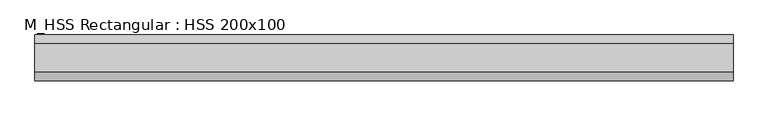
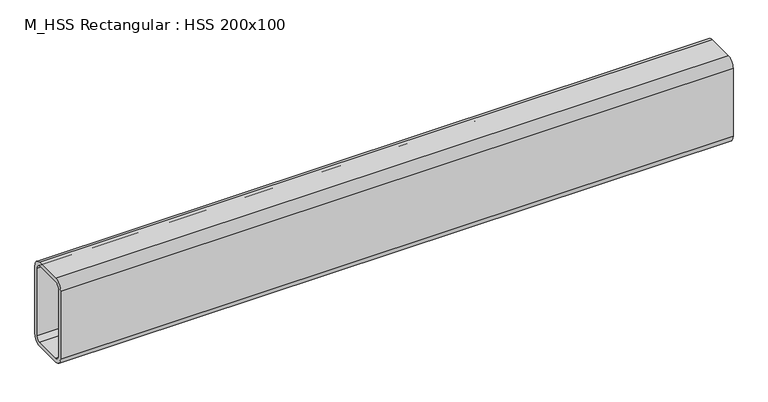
"""IFC4 building model written with IfcOpenShell, lengths in millimetres: beam geometry, M_HSS Rectangular : HSS 200x100."""

from ifc_helpers import new_model, si_unit, point, frame, frame_2d, origin, place, context, project, spatial, polyline, circle_curve, trimmed, segment, composite_curve, outline, extrude, source, transform, mapped, element, save


def m_hss_rectangular_hss_200x100_1788cd85(model_context):
    return source(origin(), model_context, "Body", "SweptSolid", [
        extrude(outline(composite_curve([segment(trimmed(circle_curve(frame_2d((-30.94, 80.94)), 19.06), [point((-50.0, 80.94))], [point((-30.94, 100.0))], False, "CARTESIAN"), True, "CONTINUOUS"), segment(polyline([(-30.94, 100.0), (30.94, 100.0)]), True, "CONTINUOUS"), segment(trimmed(circle_curve(frame_2d((30.94, 80.94)), 19.06), [point((30.94, 100.0))], [point((50.0, 80.94))], False, "CARTESIAN"), True, "CONTINUOUS"), segment(polyline([(50.0, 80.94), (50.0, -80.94)]), True, "CONTINUOUS"), segment(trimmed(circle_curve(frame_2d((30.94, -80.94)), 19.06), [point((50.0, -80.94))], [point((30.94, -100.0))], False, "CARTESIAN"), True, "CONTINUOUS"), segment(polyline([(30.94, -100.0), (-30.94, -100.0)]), True, "CONTINUOUS"), segment(trimmed(circle_curve(frame_2d((-30.94, -80.94)), 19.06), [point((-30.94, -100.0))], [point((-50.0, -80.94))], False, "CARTESIAN"), True, "CONTINUOUS"), segment(polyline([(-50.0, -80.94), (-50.0, 80.94)]), True, "CONTINUOUS")], self_intersect=False), holes=[composite_curve([segment(polyline([(30.94, 90.47), (-30.94, 90.47)]), True, "CONTINUOUS"), segment(trimmed(circle_curve(frame_2d((-30.94, 80.94)), 9.53), [point((-30.94, 90.47))], [point((-40.47, 80.94))], True, "CARTESIAN"), True, "CONTINUOUS"), segment(polyline([(-40.47, 80.94), (-40.47, -80.94)]), True, "CONTINUOUS"), segment(trimmed(circle_curve(frame_2d((-30.94, -80.94)), 9.53), [point((-40.47, -80.94))], [point((-30.94, -90.47))], True, "CARTESIAN"), True, "CONTINUOUS"), segment(polyline([(-30.94, -90.47), (30.94, -90.47)]), True, "CONTINUOUS"), segment(trimmed(circle_curve(frame_2d((30.94, -80.94)), 9.53), [point((30.94, -90.47))], [point((40.47, -80.94))], True, "CARTESIAN"), True, "CONTINUOUS"), segment(polyline([(40.47, -80.94), (40.47, 80.94)]), True, "CONTINUOUS"), segment(trimmed(circle_curve(frame_2d((30.94, 80.94)), 9.53), [point((40.47, 80.94))], [point((30.94, 90.47))], True, "CARTESIAN"), True, "CONTINUOUS")], self_intersect=False)]), frame((-758.05, 0.0, 0.0), z_axis=(1.0, 0.0, 0.0), x_axis=(0.0, 1.0, 0.0)), (0.0, 0.0, 1.0), 1516.1),
    ])


if __name__ == "__main__":
    model = new_model("IFC4")
    model_context = context("Model", 3, world=origin())
    ifc_project = project(units=[si_unit("LENGTHUNIT", "METRE", prefix="MILLI")], contexts=[model_context])
    site = spatial("IfcSite", under=ifc_project)
    building = spatial("IfcBuilding", under=site)
    placement = place(None, origin())
    m_hss_rectangular_hss_200x100_shape = m_hss_rectangular_hss_200x100_1788cd85(model_context)
    element("IfcBeam", 1, ObjectType="M_HSS Rectangular : HSS 200x100", at=placement, inside=building, context=model_context, shape_type="MappedRepresentation", body=[
        mapped(m_hss_rectangular_hss_200x100_shape, transform((0.0, 0.0, 0.0), x_axis=(1.0, 0.0, 0.0), y_axis=(0.0, 1.0, 0.0), z_axis=(0.0, 0.0, 1.0))),
    ])
    save(model, "model.ifc")
